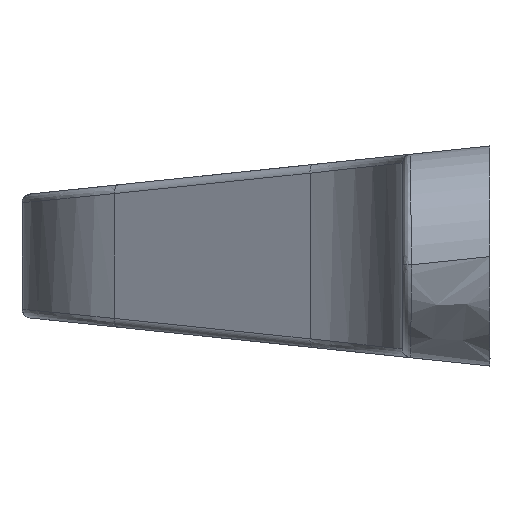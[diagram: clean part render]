
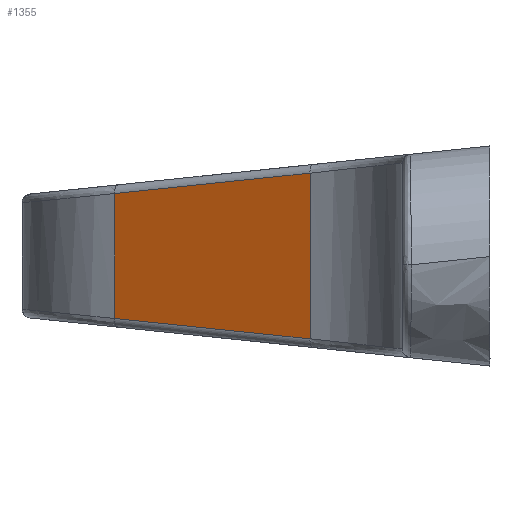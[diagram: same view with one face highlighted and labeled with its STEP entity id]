
A CAD part, left-side view. The second image highlights one B-rep face of the part: STEP entity #1355.
In plain terms, the highlighted planar face has unit normal (-0.883, 0.469, 0).
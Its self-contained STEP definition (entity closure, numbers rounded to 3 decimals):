
#118=PLANE('',#1509);
#223=FACE_OUTER_BOUND('',#307,.T.);
#307=EDGE_LOOP('',(#1253,#1254,#1255,#1256));
#394=LINE('',#2912,#496);
#397=LINE('',#3099,#499);
#409=LINE('',#3302,#511);
#410=LINE('',#3304,#512);
#496=VECTOR('',#1784,10.);
#499=VECTOR('',#1813,10.);
#511=VECTOR('',#1869,10.);
#512=VECTOR('',#1872,10.);
#665=VERTEX_POINT('',#2906);
#666=VERTEX_POINT('',#2910);
#674=VERTEX_POINT('',#3093);
#675=VERTEX_POINT('',#3097);
#834=EDGE_CURVE('',#665,#666,#394,.T.);
#851=EDGE_CURVE('',#674,#675,#397,.T.);
#875=EDGE_CURVE('',#674,#666,#409,.T.);
#876=EDGE_CURVE('',#675,#665,#410,.T.);
#1253=ORIENTED_EDGE('',*,*,#851,.F.);
#1254=ORIENTED_EDGE('',*,*,#875,.T.);
#1255=ORIENTED_EDGE('',*,*,#834,.F.);
#1256=ORIENTED_EDGE('',*,*,#876,.F.);
#1355=ADVANCED_FACE('',(#223),#118,.T.);
#1509=AXIS2_PLACEMENT_3D('',#3303,#1870,#1871);
#1784=DIRECTION('',(-0.467,-0.879,0.092));
#1813=DIRECTION('',(0.467,0.879,0.092));
#1869=DIRECTION('',(0.,0.,1.));
#1870=DIRECTION('center_axis',(-0.883,0.469,0.));
#1871=DIRECTION('ref_axis',(-0.469,-0.883,0.));
#1872=DIRECTION('',(0.,0.,1.));
#2906=CARTESIAN_POINT('',(-59.264,21.495,3.576));
#2910=CARTESIAN_POINT('',(-65.214,10.305,4.745));
#2912=CARTESIAN_POINT('',(-57.187,25.401,3.168));
#3093=CARTESIAN_POINT('',(-65.214,10.305,-4.745));
#3097=CARTESIAN_POINT('',(-59.264,21.495,-3.576));
#3099=CARTESIAN_POINT('',(-51.62,35.872,-2.074));
#3302=CARTESIAN_POINT('',(-65.214,10.305,0.));
#3303=CARTESIAN_POINT('Origin',(-59.264,21.495,0.));
#3304=CARTESIAN_POINT('',(-59.264,21.495,0.));
